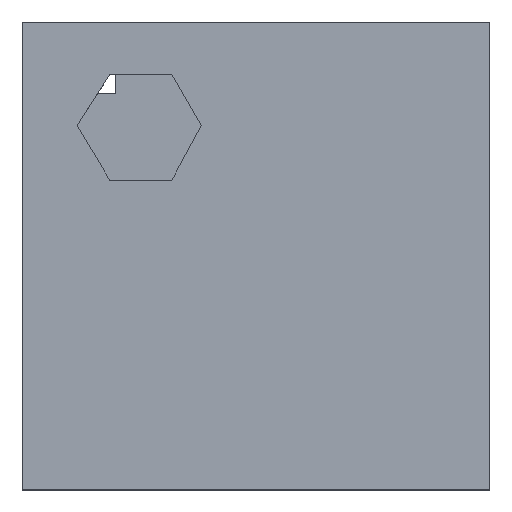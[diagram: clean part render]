
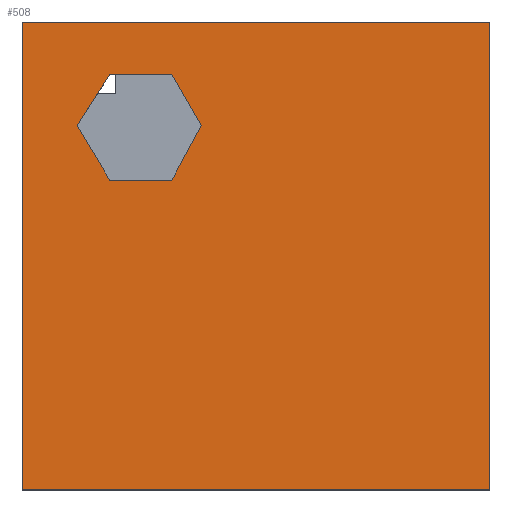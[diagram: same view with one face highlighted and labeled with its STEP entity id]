
A CAD part, top view. The second image highlights one B-rep face of the part: STEP entity #508.
In plain terms, the highlighted planar face has unit normal (0, 0, 1).
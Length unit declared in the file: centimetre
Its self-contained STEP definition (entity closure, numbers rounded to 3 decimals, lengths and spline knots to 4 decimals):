
#2 = VECTOR ( 'NONE', #191, 100. ) ;
#21 = LINE ( 'NONE', #730, #317 ) ;
#31 = FACE_OUTER_BOUND ( 'NONE', #92, .T. ) ;
#36 = CARTESIAN_POINT ( 'NONE',  ( 382.9646, 778.67, 1000. ) ) ;
#83 = LINE ( 'NONE', #628, #521 ) ;
#90 = EDGE_CURVE ( 'NONE', #916, #536, #425, .T. ) ;
#92 = EDGE_LOOP ( 'NONE', ( #414, #783, #610, #308 ) ) ;
#93 = FACE_BOUND ( 'NONE', #915, .T. ) ;
#103 = DIRECTION ( 'NONE',  ( -1., 0., 0. ) ) ;
#104 = CARTESIAN_POINT ( 'NONE',  ( 1000., 1000., 1000. ) ) ;
#116 = CARTESIAN_POINT ( 'NONE',  ( 186.8922, 888.0021, 1000. ) ) ;
#131 = CARTESIAN_POINT ( 'NONE',  ( 0., 1000., 1000. ) ) ;
#137 = VERTEX_POINT ( 'NONE', #509 ) ;
#157 = DIRECTION ( 'NONE',  ( 1., 0., 0. ) ) ;
#158 = VERTEX_POINT ( 'NONE', #116 ) ;
#165 = DIRECTION ( 'NONE',  ( 0., 1., 0. ) ) ;
#169 = CARTESIAN_POINT ( 'NONE',  ( 319.8417, 888.0021, 1000. ) ) ;
#174 = VECTOR ( 'NONE', #165, 100. ) ;
#185 = DIRECTION ( 'NONE',  ( -0.5, 0.866, 0. ) ) ;
#191 = DIRECTION ( 'NONE',  ( 0.475, 0.88, 0. ) ) ;
#207 = CARTESIAN_POINT ( 'NONE',  ( 0., 1000., 1000. ) ) ;
#208 = ORIENTED_EDGE ( 'NONE', *, *, #90, .F. ) ;
#238 = CARTESIAN_POINT ( 'NONE',  ( 186.8922, 661.5972, 1000. ) ) ;
#239 = EDGE_CURVE ( 'NONE', #372, #616, #823, .T. ) ;
#242 = CARTESIAN_POINT ( 'NONE',  ( 1000., 1000., 1000. ) ) ;
#247 = CARTESIAN_POINT ( 'NONE',  ( 186.8922, 661.5972, 1000. ) ) ;
#257 = VECTOR ( 'NONE', #682, 100. ) ;
#260 = LINE ( 'NONE', #882, #650 ) ;
#266 = EDGE_CURVE ( 'NONE', #1003, #884, #898, .T. ) ;
#308 = ORIENTED_EDGE ( 'NONE', *, *, #266, .T. ) ;
#317 = VECTOR ( 'NONE', #103, 100. ) ;
#346 = DIRECTION ( 'NONE',  ( 1., 0., 0. ) ) ;
#349 = EDGE_CURVE ( 'NONE', #536, #499, #260, .T. ) ;
#362 = ORIENTED_EDGE ( 'NONE', *, *, #925, .F. ) ;
#372 = VERTEX_POINT ( 'NONE', #869 ) ;
#373 = ORIENTED_EDGE ( 'NONE', *, *, #710, .F. ) ;
#414 = ORIENTED_EDGE ( 'NONE', *, *, #661, .T. ) ;
#425 = LINE ( 'NONE', #733, #2 ) ;
#438 = VECTOR ( 'NONE', #743, 100. ) ;
#471 = LINE ( 'NONE', #242, #174 ) ;
#475 = AXIS2_PLACEMENT_3D ( 'NONE', #885, #500, #346 ) ;
#499 = VERTEX_POINT ( 'NONE', #169 ) ;
#500 = DIRECTION ( 'NONE',  ( 0., 0., 1. ) ) ;
#508 = ADVANCED_FACE ( 'NONE', ( #93, #31 ), #971, .T. ) ;
#509 = CARTESIAN_POINT ( 'NONE',  ( 117.0656, 778.67, 1000. ) ) ;
#521 = VECTOR ( 'NONE', #937, 100. ) ;
#536 = VERTEX_POINT ( 'NONE', #36 ) ;
#547 = CARTESIAN_POINT ( 'NONE',  ( 319.8417, 661.5972, 1000. ) ) ;
#559 = EDGE_CURVE ( 'NONE', #499, #158, #21, .T. ) ;
#565 = VECTOR ( 'NONE', #660, 100. ) ;
#578 = ORIENTED_EDGE ( 'NONE', *, *, #349, .F. ) ;
#583 = CARTESIAN_POINT ( 'NONE',  ( 117.0656, 778.67, 1000. ) ) ;
#596 = CARTESIAN_POINT ( 'NONE',  ( 0., 0., 1000. ) ) ;
#610 = ORIENTED_EDGE ( 'NONE', *, *, #862, .T. ) ;
#616 = VERTEX_POINT ( 'NONE', #662 ) ;
#628 = CARTESIAN_POINT ( 'NONE',  ( 186.8922, 888.0021, 1000. ) ) ;
#630 = LINE ( 'NONE', #247, #860 ) ;
#638 = VECTOR ( 'NONE', #1002, 100. ) ;
#650 = VECTOR ( 'NONE', #185, 100. ) ;
#656 = ORIENTED_EDGE ( 'NONE', *, *, #559, .F. ) ;
#660 = DIRECTION ( 'NONE',  ( -1., 0., 0. ) ) ;
#661 = EDGE_CURVE ( 'NONE', #884, #372, #751, .T. ) ;
#662 = CARTESIAN_POINT ( 'NONE',  ( 1000., 0., 1000. ) ) ;
#682 = DIRECTION ( 'NONE',  ( 0., -1., 0. ) ) ;
#690 = LINE ( 'NONE', #583, #638 ) ;
#710 = EDGE_CURVE ( 'NONE', #137, #920, #690, .T. ) ;
#730 = CARTESIAN_POINT ( 'NONE',  ( 319.8417, 888.0021, 1000. ) ) ;
#733 = CARTESIAN_POINT ( 'NONE',  ( 319.8417, 661.5972, 1000. ) ) ;
#743 = DIRECTION ( 'NONE',  ( 1., 0., 0. ) ) ;
#751 = LINE ( 'NONE', #131, #257 ) ;
#783 = ORIENTED_EDGE ( 'NONE', *, *, #239, .T. ) ;
#823 = LINE ( 'NONE', #596, #438 ) ;
#845 = EDGE_CURVE ( 'NONE', #920, #916, #630, .T. ) ;
#860 = VECTOR ( 'NONE', #157, 100. ) ;
#862 = EDGE_CURVE ( 'NONE', #616, #1003, #471, .T. ) ;
#863 = CARTESIAN_POINT ( 'NONE',  ( 0., 1000., 1000. ) ) ;
#869 = CARTESIAN_POINT ( 'NONE',  ( 0., 0., 1000. ) ) ;
#882 = CARTESIAN_POINT ( 'NONE',  ( 382.9646, 778.67, 1000. ) ) ;
#884 = VERTEX_POINT ( 'NONE', #863 ) ;
#885 = CARTESIAN_POINT ( 'NONE',  ( 0., 0., 1000. ) ) ;
#898 = LINE ( 'NONE', #207, #565 ) ;
#915 = EDGE_LOOP ( 'NONE', ( #578, #208, #999, #373, #362, #656 ) ) ;
#916 = VERTEX_POINT ( 'NONE', #547 ) ;
#920 = VERTEX_POINT ( 'NONE', #238 ) ;
#925 = EDGE_CURVE ( 'NONE', #158, #137, #83, .T. ) ;
#937 = DIRECTION ( 'NONE',  ( -0.538, -0.843, 0. ) ) ;
#971 = PLANE ( 'NONE',  #475 ) ;
#999 = ORIENTED_EDGE ( 'NONE', *, *, #845, .F. ) ;
#1002 = DIRECTION ( 'NONE',  ( 0.512, -0.859, 0. ) ) ;
#1003 = VERTEX_POINT ( 'NONE', #104 ) ;
